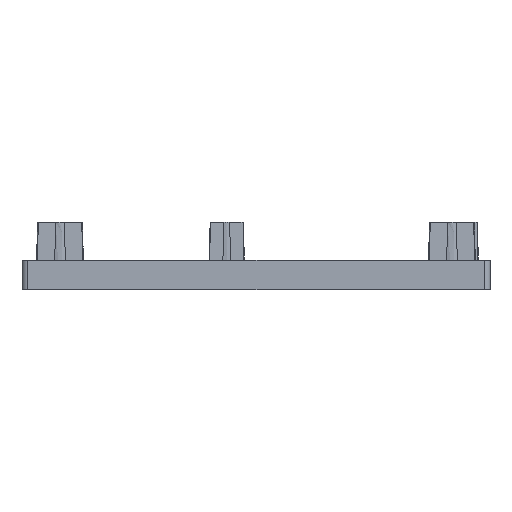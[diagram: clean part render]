
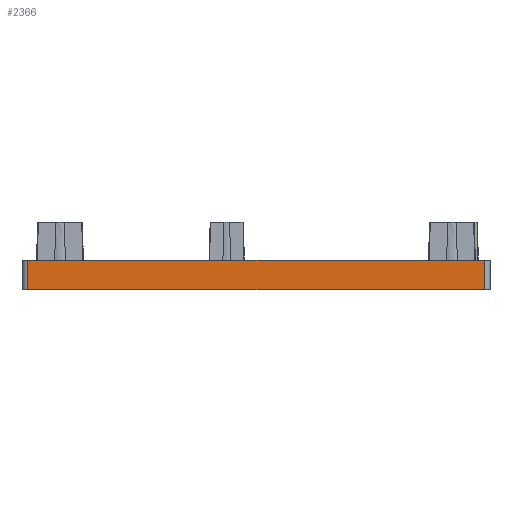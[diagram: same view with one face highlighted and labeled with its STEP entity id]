
A CAD part, front view. The second image highlights one B-rep face of the part: STEP entity #2366.
In plain terms, the highlighted planar face has unit normal (0, -1, 0).
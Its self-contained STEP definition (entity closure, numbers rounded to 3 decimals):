
#177 = LINE ( 'NONE', #3068, #2387 ) ;
#203 = LINE ( 'NONE', #2259, #943 ) ;
#230 = DIRECTION ( 'NONE',  ( 0., -1., 0. ) ) ;
#240 = ORIENTED_EDGE ( 'NONE', *, *, #262, .T. ) ;
#249 = VERTEX_POINT ( 'NONE', #880 ) ;
#262 = EDGE_CURVE ( 'NONE', #249, #1466, #1830, .T. ) ;
#266 = EDGE_LOOP ( 'NONE', ( #240, #2160, #328, #3098 ) ) ;
#328 = ORIENTED_EDGE ( 'NONE', *, *, #774, .F. ) ;
#469 = CARTESIAN_POINT ( 'NONE',  ( -40., -40., 0. ) ) ;
#613 = EDGE_CURVE ( 'NONE', #3108, #249, #3024, .T. ) ;
#624 = DIRECTION ( 'NONE',  ( 0., 0., 1. ) ) ;
#774 = EDGE_CURVE ( 'NONE', #3108, #2900, #203, .T. ) ;
#880 = CARTESIAN_POINT ( 'NONE',  ( -39., -40., 0. ) ) ;
#943 = VECTOR ( 'NONE', #1239, 1000. ) ;
#952 = EDGE_CURVE ( 'NONE', #1466, #2900, #177, .T. ) ;
#1179 = DIRECTION ( 'NONE',  ( 0., 0., -1. ) ) ;
#1239 = DIRECTION ( 'NONE',  ( 1., 0., 0. ) ) ;
#1277 = AXIS2_PLACEMENT_3D ( 'NONE', #469, #230, #1179 ) ;
#1386 = CARTESIAN_POINT ( 'NONE',  ( -39., -40., 5. ) ) ;
#1466 = VERTEX_POINT ( 'NONE', #2149 ) ;
#1475 = CARTESIAN_POINT ( 'NONE',  ( 39., -40., 5. ) ) ;
#1547 = CARTESIAN_POINT ( 'NONE',  ( -40., -40., 0. ) ) ;
#1588 = CARTESIAN_POINT ( 'NONE',  ( -39., -40., 0. ) ) ;
#1830 = LINE ( 'NONE', #1547, #2126 ) ;
#1909 = FACE_OUTER_BOUND ( 'NONE', #266, .T. ) ;
#2080 = DIRECTION ( 'NONE',  ( 0., 0., -1. ) ) ;
#2126 = VECTOR ( 'NONE', #2134, 1000. ) ;
#2134 = DIRECTION ( 'NONE',  ( 1., 0., 0. ) ) ;
#2149 = CARTESIAN_POINT ( 'NONE',  ( 39., -40., 0. ) ) ;
#2160 = ORIENTED_EDGE ( 'NONE', *, *, #952, .T. ) ;
#2259 = CARTESIAN_POINT ( 'NONE',  ( -40., -40., 5. ) ) ;
#2366 = ADVANCED_FACE ( 'NONE', ( #1909 ), #2885, .T. ) ;
#2387 = VECTOR ( 'NONE', #624, 1000. ) ;
#2480 = VECTOR ( 'NONE', #2080, 1000. ) ;
#2885 = PLANE ( 'NONE',  #1277 ) ;
#2900 = VERTEX_POINT ( 'NONE', #1475 ) ;
#3024 = LINE ( 'NONE', #1588, #2480 ) ;
#3068 = CARTESIAN_POINT ( 'NONE',  ( 39., -40., 0. ) ) ;
#3098 = ORIENTED_EDGE ( 'NONE', *, *, #613, .T. ) ;
#3108 = VERTEX_POINT ( 'NONE', #1386 ) ;
